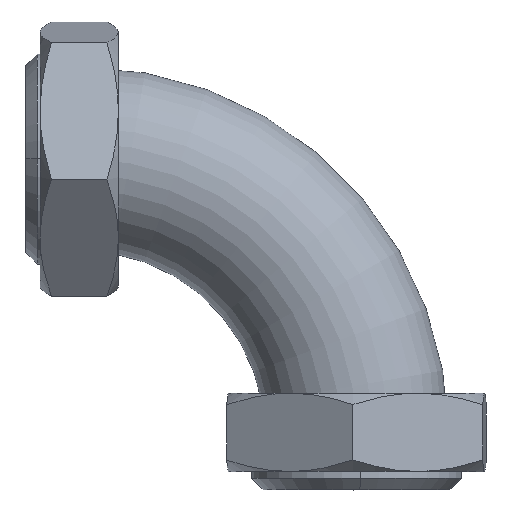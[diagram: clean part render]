
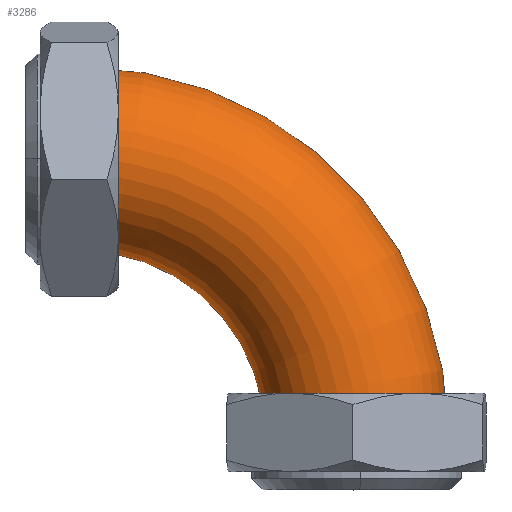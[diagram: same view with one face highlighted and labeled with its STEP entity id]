
A CAD part, top view. The second image highlights one B-rep face of the part: STEP entity #3286.
In plain terms, the highlighted toroidal (fillet/blend) face has major radius 114.3 mm and minor radius 38.1 mm.
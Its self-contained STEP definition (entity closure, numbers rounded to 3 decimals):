
#30 = AXIS2_PLACEMENT_3D ( 'NONE', #402, #1492, #1223 ) ;
#85 = DIRECTION ( 'NONE',  ( 0., 0., -1. ) ) ;
#113 = VERTEX_POINT ( 'NONE', #3465 ) ;
#173 = CARTESIAN_POINT ( 'NONE',  ( 0., 152.4, 0. ) ) ;
#402 = CARTESIAN_POINT ( 'NONE',  ( 114.3, 0., 0. ) ) ;
#482 = DIRECTION ( 'NONE',  ( -1., 0., 0. ) ) ;
#499 = AXIS2_PLACEMENT_3D ( 'NONE', #2711, #482, #1286 ) ;
#538 = VERTEX_POINT ( 'NONE', #3567 ) ;
#581 = ORIENTED_EDGE ( 'NONE', *, *, #1171, .T. ) ;
#1033 = CARTESIAN_POINT ( 'NONE',  ( 76.2, 0., 0. ) ) ;
#1095 = DIRECTION ( 'NONE',  ( 0., 0., -1. ) ) ;
#1097 = DIRECTION ( 'NONE',  ( 0., 0., -1. ) ) ;
#1171 = EDGE_CURVE ( 'NONE', #113, #3089, #3537, .T. ) ;
#1203 = DIRECTION ( 'NONE',  ( -1., 0., 0. ) ) ;
#1223 = DIRECTION ( 'NONE',  ( 0., 0., 1. ) ) ;
#1286 = DIRECTION ( 'NONE',  ( 0., 0., 1. ) ) ;
#1389 = FACE_OUTER_BOUND ( 'NONE', #2119, .T. ) ;
#1456 = ORIENTED_EDGE ( 'NONE', *, *, #3067, .T. ) ;
#1492 = DIRECTION ( 'NONE',  ( 0., 1., 0. ) ) ;
#1634 = VERTEX_POINT ( 'NONE', #173 ) ;
#1649 = ORIENTED_EDGE ( 'NONE', *, *, #2706, .F. ) ;
#1762 = AXIS2_PLACEMENT_3D ( 'NONE', #2321, #85, #1203 ) ;
#1871 = TOROIDAL_SURFACE ( 'NONE', #1762, 114.3, 38.1 ) ;
#1976 = AXIS2_PLACEMENT_3D ( 'NONE', #2756, #1097, #3346 ) ;
#2119 = EDGE_LOOP ( 'NONE', ( #2882, #1649, #581, #1456 ) ) ;
#2189 = CIRCLE ( 'NONE', #3051, 152.4 ) ;
#2192 = CIRCLE ( 'NONE', #499, 38.1 ) ;
#2234 = EDGE_CURVE ( 'NONE', #1634, #538, #2189, .T. ) ;
#2252 = CIRCLE ( 'NONE', #30, 38.1 ) ;
#2321 = CARTESIAN_POINT ( 'NONE',  ( 0., 0., 0. ) ) ;
#2706 = EDGE_CURVE ( 'NONE', #113, #1634, #2192, .T. ) ;
#2711 = CARTESIAN_POINT ( 'NONE',  ( 0., 114.3, 0. ) ) ;
#2736 = CARTESIAN_POINT ( 'NONE',  ( 0., 0., 0. ) ) ;
#2756 = CARTESIAN_POINT ( 'NONE',  ( 0., 0., 0. ) ) ;
#2770 = DIRECTION ( 'NONE',  ( -1., 0., 0. ) ) ;
#2882 = ORIENTED_EDGE ( 'NONE', *, *, #2234, .F. ) ;
#3051 = AXIS2_PLACEMENT_3D ( 'NONE', #2736, #1095, #2770 ) ;
#3067 = EDGE_CURVE ( 'NONE', #3089, #538, #2252, .T. ) ;
#3089 = VERTEX_POINT ( 'NONE', #1033 ) ;
#3286 = ADVANCED_FACE ( 'NONE', ( #1389 ), #1871, .T. ) ;
#3346 = DIRECTION ( 'NONE',  ( -1., 0., 0. ) ) ;
#3465 = CARTESIAN_POINT ( 'NONE',  ( 0., 76.2, 0. ) ) ;
#3537 = CIRCLE ( 'NONE', #1976, 76.2 ) ;
#3567 = CARTESIAN_POINT ( 'NONE',  ( 152.4, 0., 0. ) ) ;
